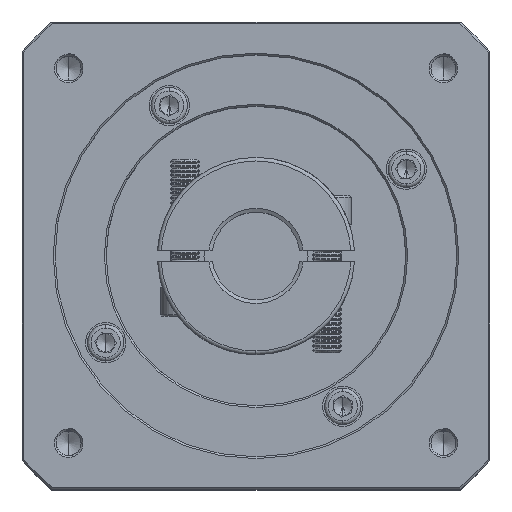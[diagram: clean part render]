
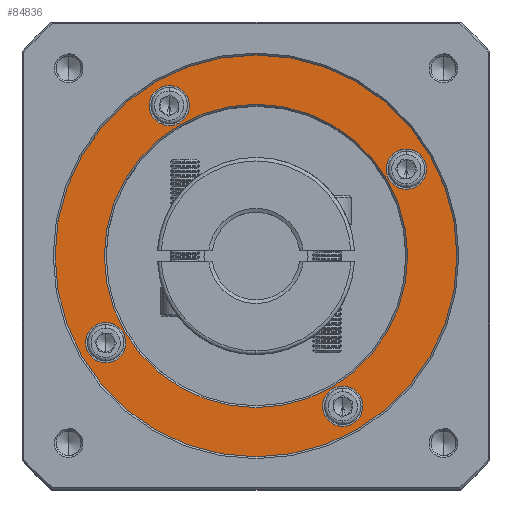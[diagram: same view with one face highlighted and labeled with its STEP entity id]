
A CAD part, top view. The second image highlights one B-rep face of the part: STEP entity #84836.
In plain terms, the highlighted planar face has unit normal (0, 0, 1).
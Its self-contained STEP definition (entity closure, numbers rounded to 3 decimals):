
#5740 = DIRECTION ( 'NONE',  ( 0., -1., 0. ) ) ;
#6030 = AXIS2_PLACEMENT_3D ( 'NONE', #73266, #20447, #106497 ) ;
#10856 = EDGE_CURVE ( 'NONE', #95119, #41910, #100792, .T. ) ;
#12195 = DIRECTION ( 'NONE',  ( 0., 0., -1. ) ) ;
#12395 = ORIENTED_EDGE ( 'NONE', *, *, #136161, .T. ) ;
#12990 = AXIS2_PLACEMENT_3D ( 'NONE', #119385, #13336, #76427 ) ;
#13129 = CIRCLE ( 'NONE', #96638, 55. ) ;
#13336 = DIRECTION ( 'NONE',  ( 0., 0., -1. ) ) ;
#13443 = EDGE_CURVE ( 'NONE', #41910, #95119, #52337, .T. ) ;
#13771 = DIRECTION ( 'NONE',  ( 0., -1., 0. ) ) ;
#16208 = CIRCLE ( 'NONE', #124292, 41.5 ) ;
#17176 = EDGE_CURVE ( 'NONE', #37066, #136188, #13129, .T. ) ;
#17205 = DIRECTION ( 'NONE',  ( 0., 0., 1. ) ) ;
#17716 = DIRECTION ( 'NONE',  ( 0., -1., 0. ) ) ;
#17923 = ORIENTED_EDGE ( 'NONE', *, *, #48934, .T. ) ;
#17977 = CIRCLE ( 'NONE', #33457, 5.5 ) ;
#18031 = EDGE_CURVE ( 'NONE', #55709, #19599, #81224, .T. ) ;
#19047 = CIRCLE ( 'NONE', #92322, 41.5 ) ;
#19165 = ORIENTED_EDGE ( 'NONE', *, *, #97782, .T. ) ;
#19599 = VERTEX_POINT ( 'NONE', #125134 ) ;
#20447 = DIRECTION ( 'NONE',  ( 0., 0., 1. ) ) ;
#20636 = DIRECTION ( 'NONE',  ( 0., -1., 0. ) ) ;
#21304 = EDGE_LOOP ( 'NONE', ( #41187, #17923 ) ) ;
#23369 = ORIENTED_EDGE ( 'NONE', *, *, #37017, .T. ) ;
#25981 = AXIS2_PLACEMENT_3D ( 'NONE', #35159, #88429, #109994 ) ;
#26914 = CARTESIAN_POINT ( 'NONE',  ( 59.764, 128.148, 51.74 ) ) ;
#29348 = AXIS2_PLACEMENT_3D ( 'NONE', #133082, #122402, #132592 ) ;
#31514 = VERTEX_POINT ( 'NONE', #115784 ) ;
#33457 = AXIS2_PLACEMENT_3D ( 'NONE', #73903, #51889, #20636 ) ;
#35159 = CARTESIAN_POINT ( 'NONE',  ( 42.378, 57.761, 51.74 ) ) ;
#37017 = EDGE_CURVE ( 'NONE', #52287, #102770, #19047, .T. ) ;
#37066 = VERTEX_POINT ( 'NONE', #44746 ) ;
#37549 = AXIS2_PLACEMENT_3D ( 'NONE', #113222, #112284, #5740 ) ;
#39624 = AXIS2_PLACEMENT_3D ( 'NONE', #97610, #55035, #64899 ) ;
#40142 = CARTESIAN_POINT ( 'NONE',  ( 125.014, 81.511, 51.74 ) ) ;
#41187 = ORIENTED_EDGE ( 'NONE', *, *, #18031, .T. ) ;
#41375 = ORIENTED_EDGE ( 'NONE', *, *, #10856, .T. ) ;
#41910 = VERTEX_POINT ( 'NONE', #138044 ) ;
#42174 = FACE_BOUND ( 'NONE', #51791, .T. ) ;
#44455 = EDGE_CURVE ( 'NONE', #31514, #71837, #96250, .T. ) ;
#44746 = CARTESIAN_POINT ( 'NONE',  ( 83.514, 26.511, 51.74 ) ) ;
#46044 = AXIS2_PLACEMENT_3D ( 'NONE', #82172, #50320, #17716 ) ;
#47394 = EDGE_LOOP ( 'NONE', ( #65965, #12395 ) ) ;
#47825 = CIRCLE ( 'NONE', #72315, 5.5 ) ;
#48934 = EDGE_CURVE ( 'NONE', #19599, #55709, #17977, .T. ) ;
#50320 = DIRECTION ( 'NONE',  ( 0., 0., -1. ) ) ;
#51791 = EDGE_LOOP ( 'NONE', ( #41375, #78075 ) ) ;
#51889 = DIRECTION ( 'NONE',  ( 0., 0., -1. ) ) ;
#52287 = VERTEX_POINT ( 'NONE', #126148 ) ;
#52337 = CIRCLE ( 'NONE', #57583, 5.5 ) ;
#55035 = DIRECTION ( 'NONE',  ( 0., 0., -1. ) ) ;
#55709 = VERTEX_POINT ( 'NONE', #94286 ) ;
#56070 = EDGE_LOOP ( 'NONE', ( #89608, #138337 ) ) ;
#56196 = ORIENTED_EDGE ( 'NONE', *, *, #17176, .T. ) ;
#56678 = EDGE_CURVE ( 'NONE', #71837, #31514, #47825, .T. ) ;
#57302 = CIRCLE ( 'NONE', #29348, 55. ) ;
#57583 = AXIS2_PLACEMENT_3D ( 'NONE', #68860, #88961, #13771 ) ;
#64760 = EDGE_LOOP ( 'NONE', ( #23369, #88272 ) ) ;
#64899 = DIRECTION ( 'NONE',  ( 0., -1., 0. ) ) ;
#65965 = ORIENTED_EDGE ( 'NONE', *, *, #118206, .T. ) ;
#68649 = CARTESIAN_POINT ( 'NONE',  ( 107.264, 34.875, 51.74 ) ) ;
#68860 = CARTESIAN_POINT ( 'NONE',  ( 107.264, 40.375, 51.74 ) ) ;
#71837 = VERTEX_POINT ( 'NONE', #125232 ) ;
#72315 = AXIS2_PLACEMENT_3D ( 'NONE', #86019, #12195, #108946 ) ;
#73266 = CARTESIAN_POINT ( 'NONE',  ( 83.514, 81.511, 51.74 ) ) ;
#73903 = CARTESIAN_POINT ( 'NONE',  ( 42.378, 57.761, 51.74 ) ) ;
#73998 = FACE_BOUND ( 'NONE', #21304, .T. ) ;
#75733 = FACE_BOUND ( 'NONE', #47394, .T. ) ;
#76427 = DIRECTION ( 'NONE',  ( 0., -1., 0. ) ) ;
#78075 = ORIENTED_EDGE ( 'NONE', *, *, #13443, .T. ) ;
#79895 = CIRCLE ( 'NONE', #46044, 5.5 ) ;
#81224 = CIRCLE ( 'NONE', #25981, 5.5 ) ;
#82172 = CARTESIAN_POINT ( 'NONE',  ( 59.764, 122.648, 51.74 ) ) ;
#83608 = DIRECTION ( 'NONE',  ( -1., 0., 0. ) ) ;
#84836 = ADVANCED_FACE ( 'NONE', ( #102486, #129183, #42174, #95721, #73998, #75733 ), #113930, .T. ) ;
#86019 = CARTESIAN_POINT ( 'NONE',  ( 124.65, 105.261, 51.74 ) ) ;
#88272 = ORIENTED_EDGE ( 'NONE', *, *, #120374, .T. ) ;
#88429 = DIRECTION ( 'NONE',  ( 0., 0., -1. ) ) ;
#88961 = DIRECTION ( 'NONE',  ( 0., 0., -1. ) ) ;
#89608 = ORIENTED_EDGE ( 'NONE', *, *, #44455, .T. ) ;
#92322 = AXIS2_PLACEMENT_3D ( 'NONE', #106571, #126597, #83608 ) ;
#94286 = CARTESIAN_POINT ( 'NONE',  ( 42.378, 52.261, 51.74 ) ) ;
#94567 = VERTEX_POINT ( 'NONE', #26914 ) ;
#95119 = VERTEX_POINT ( 'NONE', #68649 ) ;
#95721 = FACE_BOUND ( 'NONE', #56070, .T. ) ;
#96250 = CIRCLE ( 'NONE', #12990, 5.5 ) ;
#96638 = AXIS2_PLACEMENT_3D ( 'NONE', #123726, #17205, #135340 ) ;
#97546 = VERTEX_POINT ( 'NONE', #115214 ) ;
#97610 = CARTESIAN_POINT ( 'NONE',  ( 59.764, 122.648, 51.74 ) ) ;
#97782 = EDGE_CURVE ( 'NONE', #136188, #37066, #57302, .T. ) ;
#100792 = CIRCLE ( 'NONE', #37549, 5.5 ) ;
#102051 = DIRECTION ( 'NONE',  ( -1., 0., 0. ) ) ;
#102486 = FACE_OUTER_BOUND ( 'NONE', #115203, .T. ) ;
#102770 = VERTEX_POINT ( 'NONE', #40142 ) ;
#106497 = DIRECTION ( 'NONE',  ( 0., -1., 0. ) ) ;
#106571 = CARTESIAN_POINT ( 'NONE',  ( 83.514, 81.511, 51.74 ) ) ;
#108946 = DIRECTION ( 'NONE',  ( 0., -1., 0. ) ) ;
#109994 = DIRECTION ( 'NONE',  ( 0., -1., 0. ) ) ;
#112284 = DIRECTION ( 'NONE',  ( 0., 0., -1. ) ) ;
#113222 = CARTESIAN_POINT ( 'NONE',  ( 107.264, 40.375, 51.74 ) ) ;
#113930 = PLANE ( 'NONE',  #6030 ) ;
#115203 = EDGE_LOOP ( 'NONE', ( #56196, #19165 ) ) ;
#115214 = CARTESIAN_POINT ( 'NONE',  ( 59.764, 117.148, 51.74 ) ) ;
#115784 = CARTESIAN_POINT ( 'NONE',  ( 124.65, 99.761, 51.74 ) ) ;
#118206 = EDGE_CURVE ( 'NONE', #97546, #94567, #79895, .T. ) ;
#119385 = CARTESIAN_POINT ( 'NONE',  ( 124.65, 105.261, 51.74 ) ) ;
#120374 = EDGE_CURVE ( 'NONE', #102770, #52287, #16208, .T. ) ;
#122402 = DIRECTION ( 'NONE',  ( 0., 0., 1. ) ) ;
#123726 = CARTESIAN_POINT ( 'NONE',  ( 83.514, 81.511, 51.74 ) ) ;
#123875 = DIRECTION ( 'NONE',  ( 0., 0., -1. ) ) ;
#124292 = AXIS2_PLACEMENT_3D ( 'NONE', #133652, #123875, #102051 ) ;
#125134 = CARTESIAN_POINT ( 'NONE',  ( 42.378, 63.261, 51.74 ) ) ;
#125232 = CARTESIAN_POINT ( 'NONE',  ( 124.65, 110.761, 51.74 ) ) ;
#126148 = CARTESIAN_POINT ( 'NONE',  ( 42.014, 81.511, 51.74 ) ) ;
#126597 = DIRECTION ( 'NONE',  ( 0., 0., -1. ) ) ;
#129183 = FACE_BOUND ( 'NONE', #64760, .T. ) ;
#129612 = CIRCLE ( 'NONE', #39624, 5.5 ) ;
#129773 = CARTESIAN_POINT ( 'NONE',  ( 83.514, 136.511, 51.74 ) ) ;
#132592 = DIRECTION ( 'NONE',  ( 0., -1., 0. ) ) ;
#133082 = CARTESIAN_POINT ( 'NONE',  ( 83.514, 81.511, 51.74 ) ) ;
#133652 = CARTESIAN_POINT ( 'NONE',  ( 83.514, 81.511, 51.74 ) ) ;
#135340 = DIRECTION ( 'NONE',  ( 0., -1., 0. ) ) ;
#136161 = EDGE_CURVE ( 'NONE', #94567, #97546, #129612, .T. ) ;
#136188 = VERTEX_POINT ( 'NONE', #129773 ) ;
#138044 = CARTESIAN_POINT ( 'NONE',  ( 107.264, 45.875, 51.74 ) ) ;
#138337 = ORIENTED_EDGE ( 'NONE', *, *, #56678, .T. ) ;
